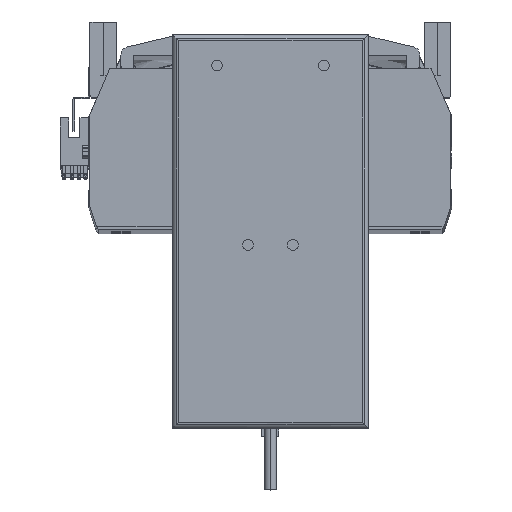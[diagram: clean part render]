
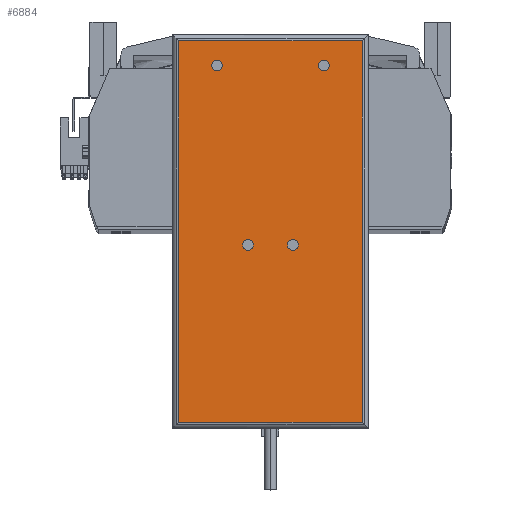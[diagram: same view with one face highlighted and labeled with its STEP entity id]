
A CAD part, top view. The second image highlights one B-rep face of the part: STEP entity #6884.
In plain terms, the highlighted planar face has unit normal (0, 0, 1) as drawn and (0, 0, -1) by its records, which use the part's own axes.
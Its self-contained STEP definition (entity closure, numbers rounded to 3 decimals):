
#107 = LINE ( 'NONE', #16545, #10334 ) ;
#716 = EDGE_LOOP ( 'NONE', ( #17911, #9063 ) ) ;
#2167 = CARTESIAN_POINT ( 'NONE',  ( -43., -89.25, 0. ) ) ;
#3042 = AXIS2_PLACEMENT_3D ( 'NONE', #18134, #44583, #6250 ) ;
#3431 = ORIENTED_EDGE ( 'NONE', *, *, #12156, .T. ) ;
#3590 = EDGE_LOOP ( 'NONE', ( #38435, #46972 ) ) ;
#3770 = CARTESIAN_POINT ( 'NONE',  ( -25., 77.75, 0. ) ) ;
#3962 = DIRECTION ( 'NONE',  ( 0., 0., -1. ) ) ;
#5421 = VERTEX_POINT ( 'NONE', #34901 ) ;
#5771 = VERTEX_POINT ( 'NONE', #26924 ) ;
#6250 = DIRECTION ( 'NONE',  ( -1., 0., 0. ) ) ;
#6884 = ADVANCED_FACE ( 'NONE', ( #18095, #25314, #9107, #43996, #33765 ), #30399, .F. ) ;
#7350 = DIRECTION ( 'NONE',  ( 1., 0., 0. ) ) ;
#7496 = LINE ( 'NONE', #19973, #13475 ) ;
#8104 = CARTESIAN_POINT ( 'NONE',  ( 13., -6.25, 0. ) ) ;
#8354 = CARTESIAN_POINT ( 'NONE',  ( -13., -6.25, 0. ) ) ;
#8357 = CIRCLE ( 'NONE', #3042, 2.5 ) ;
#9063 = ORIENTED_EDGE ( 'NONE', *, *, #16605, .F. ) ;
#9107 = FACE_BOUND ( 'NONE', #3590, .T. ) ;
#9173 = CARTESIAN_POINT ( 'NONE',  ( 25., 77.75, 0. ) ) ;
#9589 = CARTESIAN_POINT ( 'NONE',  ( 25., 77.75, 0. ) ) ;
#9981 = DIRECTION ( 'NONE',  ( -1., 0., 0. ) ) ;
#10334 = VECTOR ( 'NONE', #31393, 1000. ) ;
#11371 = CIRCLE ( 'NONE', #22784, 2.5 ) ;
#12156 = EDGE_CURVE ( 'NONE', #16836, #15408, #18307, .T. ) ;
#12282 = CIRCLE ( 'NONE', #30948, 2.5 ) ;
#12411 = ORIENTED_EDGE ( 'NONE', *, *, #36011, .T. ) ;
#13475 = VECTOR ( 'NONE', #23823, 1000. ) ;
#13621 = CARTESIAN_POINT ( 'NONE',  ( -25., 77.75, 0. ) ) ;
#13700 = CIRCLE ( 'NONE', #20237, 2.5 ) ;
#14578 = DIRECTION ( 'NONE',  ( 0., 0., 1. ) ) ;
#14629 = DIRECTION ( 'NONE',  ( -1., 0., 0. ) ) ;
#15163 = EDGE_CURVE ( 'NONE', #15408, #19426, #107, .T. ) ;
#15408 = VERTEX_POINT ( 'NONE', #17864 ) ;
#15525 = VERTEX_POINT ( 'NONE', #30501 ) ;
#15952 = EDGE_CURVE ( 'NONE', #17881, #16836, #25290, .T. ) ;
#16545 = CARTESIAN_POINT ( 'NONE',  ( -46., 89.25, 0. ) ) ;
#16605 = EDGE_CURVE ( 'NONE', #21233, #5771, #11371, .T. ) ;
#16836 = VERTEX_POINT ( 'NONE', #2167 ) ;
#17772 = CIRCLE ( 'NONE', #22212, 2.5 ) ;
#17864 = CARTESIAN_POINT ( 'NONE',  ( -43., 89.25, 0. ) ) ;
#17881 = VERTEX_POINT ( 'NONE', #37772 ) ;
#17911 = ORIENTED_EDGE ( 'NONE', *, *, #46974, .F. ) ;
#18095 = FACE_OUTER_BOUND ( 'NONE', #47886, .T. ) ;
#18134 = CARTESIAN_POINT ( 'NONE',  ( 10.5, -6.25, 0. ) ) ;
#18307 = LINE ( 'NONE', #42159, #23706 ) ;
#19008 = DIRECTION ( 'NONE',  ( -1., 0., 0. ) ) ;
#19238 = VECTOR ( 'NONE', #14629, 1000. ) ;
#19426 = VERTEX_POINT ( 'NONE', #29033 ) ;
#19973 = CARTESIAN_POINT ( 'NONE',  ( 43., -92.25, 0. ) ) ;
#20237 = AXIS2_PLACEMENT_3D ( 'NONE', #28925, #21319, #48077 ) ;
#20245 = EDGE_LOOP ( 'NONE', ( #28788, #35548 ) ) ;
#20754 = DIRECTION ( 'NONE',  ( 0., 0., -1. ) ) ;
#20970 = EDGE_LOOP ( 'NONE', ( #23619, #37696 ) ) ;
#21233 = VERTEX_POINT ( 'NONE', #24931 ) ;
#21319 = DIRECTION ( 'NONE',  ( 0., 0., -1. ) ) ;
#22212 = AXIS2_PLACEMENT_3D ( 'NONE', #13621, #47439, #24366 ) ;
#22784 = AXIS2_PLACEMENT_3D ( 'NONE', #9173, #20754, #40063 ) ;
#22797 = CARTESIAN_POINT ( 'NONE',  ( -46., -92.25, 0. ) ) ;
#22805 = DIRECTION ( 'NONE',  ( 0., 1., 0. ) ) ;
#23214 = DIRECTION ( 'NONE',  ( 0., 0., -1. ) ) ;
#23619 = ORIENTED_EDGE ( 'NONE', *, *, #46420, .F. ) ;
#23705 = CARTESIAN_POINT ( 'NONE',  ( 8., -6.25, 0. ) ) ;
#23706 = VECTOR ( 'NONE', #22805, 1000. ) ;
#23823 = DIRECTION ( 'NONE',  ( 0., -1., 0. ) ) ;
#24366 = DIRECTION ( 'NONE',  ( -1., 0., 0. ) ) ;
#24755 = VERTEX_POINT ( 'NONE', #8354 ) ;
#24931 = CARTESIAN_POINT ( 'NONE',  ( 27.5, 77.75, 0. ) ) ;
#25180 = EDGE_CURVE ( 'NONE', #40958, #35500, #46511, .T. ) ;
#25290 = LINE ( 'NONE', #26726, #19238 ) ;
#25314 = FACE_BOUND ( 'NONE', #20970, .T. ) ;
#25385 = DIRECTION ( 'NONE',  ( 0., 0., -1. ) ) ;
#26015 = ORIENTED_EDGE ( 'NONE', *, *, #15163, .T. ) ;
#26252 = VERTEX_POINT ( 'NONE', #45144 ) ;
#26453 = DIRECTION ( 'NONE',  ( -1., 0., 0. ) ) ;
#26726 = CARTESIAN_POINT ( 'NONE',  ( -46., -89.25, 0. ) ) ;
#26924 = CARTESIAN_POINT ( 'NONE',  ( 22.5, 77.75, 0. ) ) ;
#27024 = ORIENTED_EDGE ( 'NONE', *, *, #15952, .T. ) ;
#28788 = ORIENTED_EDGE ( 'NONE', *, *, #45499, .F. ) ;
#28925 = CARTESIAN_POINT ( 'NONE',  ( -10.5, -6.25, 0. ) ) ;
#28941 = EDGE_CURVE ( 'NONE', #35500, #40958, #8357, .T. ) ;
#29033 = CARTESIAN_POINT ( 'NONE',  ( 43., 89.25, 0. ) ) ;
#30398 = AXIS2_PLACEMENT_3D ( 'NONE', #22797, #14578, #7350 ) ;
#30399 = PLANE ( 'NONE',  #30398 ) ;
#30501 = CARTESIAN_POINT ( 'NONE',  ( -22.5, 77.75, 0. ) ) ;
#30948 = AXIS2_PLACEMENT_3D ( 'NONE', #44457, #36567, #9981 ) ;
#31393 = DIRECTION ( 'NONE',  ( 1., 0., 0. ) ) ;
#32108 = AXIS2_PLACEMENT_3D ( 'NONE', #45645, #3962, #26453 ) ;
#32734 = CIRCLE ( 'NONE', #39951, 2.5 ) ;
#33138 = DIRECTION ( 'NONE',  ( -1., 0., 0. ) ) ;
#33765 = FACE_BOUND ( 'NONE', #716, .T. ) ;
#34901 = CARTESIAN_POINT ( 'NONE',  ( -27.5, 77.75, 0. ) ) ;
#35436 = AXIS2_PLACEMENT_3D ( 'NONE', #3770, #23214, #19008 ) ;
#35500 = VERTEX_POINT ( 'NONE', #8104 ) ;
#35548 = ORIENTED_EDGE ( 'NONE', *, *, #45795, .F. ) ;
#36011 = EDGE_CURVE ( 'NONE', #19426, #17881, #7496, .T. ) ;
#36567 = DIRECTION ( 'NONE',  ( 0., 0., -1. ) ) ;
#37696 = ORIENTED_EDGE ( 'NONE', *, *, #44387, .F. ) ;
#37772 = CARTESIAN_POINT ( 'NONE',  ( 43., -89.25, 0. ) ) ;
#38435 = ORIENTED_EDGE ( 'NONE', *, *, #25180, .F. ) ;
#39951 = AXIS2_PLACEMENT_3D ( 'NONE', #9589, #25385, #33138 ) ;
#40063 = DIRECTION ( 'NONE',  ( -1., 0., 0. ) ) ;
#40958 = VERTEX_POINT ( 'NONE', #23705 ) ;
#42159 = CARTESIAN_POINT ( 'NONE',  ( -43., -92.25, 0. ) ) ;
#43996 = FACE_BOUND ( 'NONE', #20245, .T. ) ;
#44387 = EDGE_CURVE ( 'NONE', #26252, #24755, #13700, .T. ) ;
#44457 = CARTESIAN_POINT ( 'NONE',  ( -10.5, -6.25, 0. ) ) ;
#44583 = DIRECTION ( 'NONE',  ( 0., 0., -1. ) ) ;
#44880 = CIRCLE ( 'NONE', #35436, 2.5 ) ;
#45144 = CARTESIAN_POINT ( 'NONE',  ( -8., -6.25, 0. ) ) ;
#45499 = EDGE_CURVE ( 'NONE', #5421, #15525, #44880, .T. ) ;
#45645 = CARTESIAN_POINT ( 'NONE',  ( 10.5, -6.25, 0. ) ) ;
#45795 = EDGE_CURVE ( 'NONE', #15525, #5421, #17772, .T. ) ;
#46420 = EDGE_CURVE ( 'NONE', #24755, #26252, #12282, .T. ) ;
#46511 = CIRCLE ( 'NONE', #32108, 2.5 ) ;
#46972 = ORIENTED_EDGE ( 'NONE', *, *, #28941, .F. ) ;
#46974 = EDGE_CURVE ( 'NONE', #5771, #21233, #32734, .T. ) ;
#47439 = DIRECTION ( 'NONE',  ( 0., 0., -1. ) ) ;
#47886 = EDGE_LOOP ( 'NONE', ( #12411, #27024, #3431, #26015 ) ) ;
#48077 = DIRECTION ( 'NONE',  ( -1., 0., 0. ) ) ;
